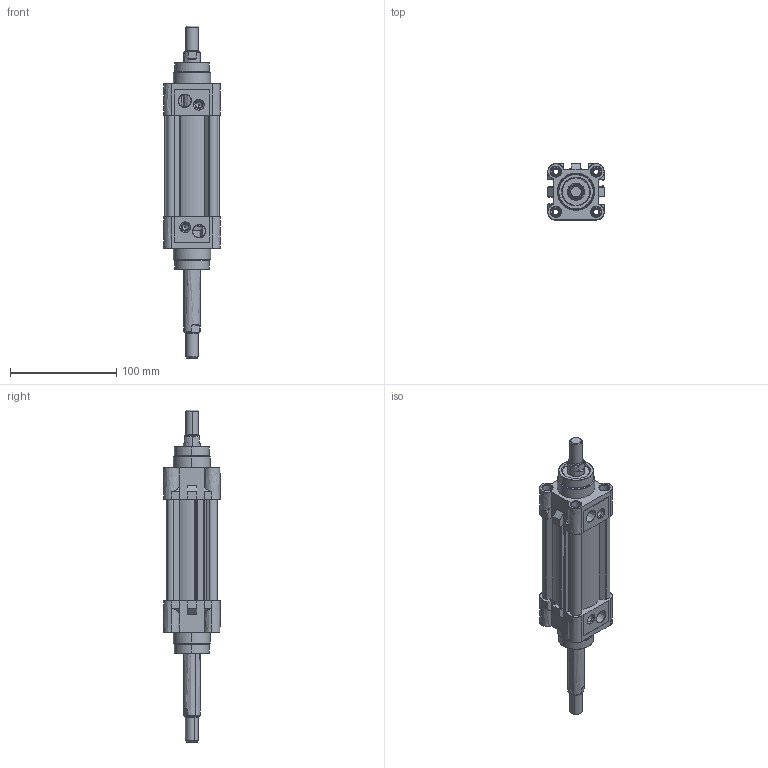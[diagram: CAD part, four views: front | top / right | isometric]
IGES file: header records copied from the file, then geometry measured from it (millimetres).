
Start section: SolidWorks IGES file using analytic representation for surfaces
Global section: file name: D:\ARICA 3D 禽Z軲LER\3D IGES\KDNT 禽FT M軱L輁KDNT40\KDNT40X50CIFTMILLI-CYLINDER.IGS; native system: SolidWorks 2013; preprocessor: SolidWorks 2013; author: user; date: 160324.083432; units: millimetre
Bounding box: 53 x 53.3 x 313.1 mm (x, y, z)
Surface area: 122035 mm2 (no closed solid volume)
Topology: 0 solids, 0 shells, 716 faces, 11528 edges, 11510 vertices
Faces by surface type: revolution 438, bspline 278
